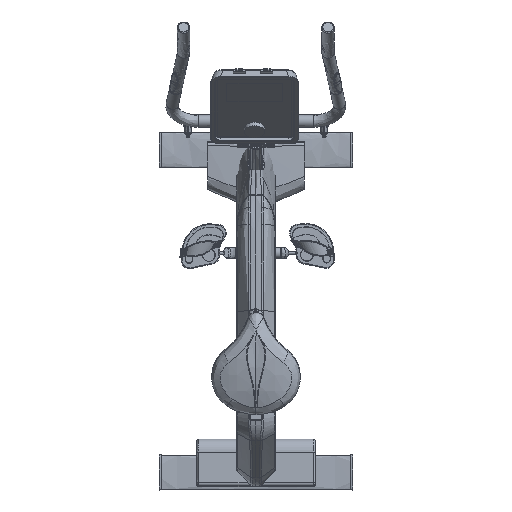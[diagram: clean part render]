
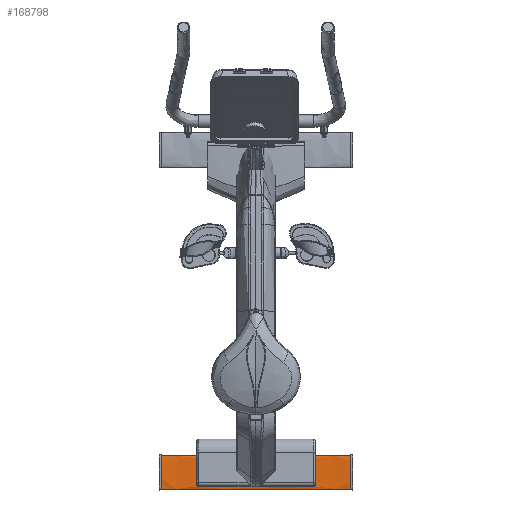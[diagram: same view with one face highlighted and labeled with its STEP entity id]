
A CAD part, top view. The second image highlights one B-rep face of the part: STEP entity #168798.
In plain terms, the highlighted free-form (B-spline) face has degree [3, 3] with [4, 4] control points.
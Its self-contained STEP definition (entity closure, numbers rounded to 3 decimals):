
#168699=CARTESIAN_POINT('',(255.563,-524.05,64.88));
#168700=VERTEX_POINT('',#168699);
#168701=CARTESIAN_POINT('',(255.563,-432.127,64.88));
#168702=VERTEX_POINT('',#168701);
#168703=CARTESIAN_POINT('',(255.563,-524.048,64.877));
#168704=CARTESIAN_POINT('',(255.563,-524.034,65.118));
#168705=CARTESIAN_POINT('',(255.563,-523.889,65.332));
#168706=CARTESIAN_POINT('',(255.563,-523.708,65.499));
#168707=CARTESIAN_POINT('',(255.563,-523.523,65.669));
#168708=CARTESIAN_POINT('',(255.563,-523.322,65.794));
#168709=CARTESIAN_POINT('',(255.563,-523.104,65.91));
#168710=CARTESIAN_POINT('',(255.563,-522.67,66.142));
#168711=CARTESIAN_POINT('',(255.563,-522.215,66.309));
#168712=CARTESIAN_POINT('',(255.563,-521.749,66.457));
#168713=CARTESIAN_POINT('',(255.563,-520.817,66.755));
#168714=CARTESIAN_POINT('',(255.563,-519.867,66.963));
#168715=CARTESIAN_POINT('',(255.563,-518.91,67.147));
#168716=CARTESIAN_POINT('',(255.563,-516.996,67.514));
#168717=CARTESIAN_POINT('',(255.563,-515.061,67.767));
#168718=CARTESIAN_POINT('',(255.563,-513.124,67.985));
#168719=CARTESIAN_POINT('',(255.563,-509.249,68.422));
#168720=CARTESIAN_POINT('',(255.563,-505.36,68.698));
#168721=CARTESIAN_POINT('',(255.563,-501.467,68.907));
#168722=CARTESIAN_POINT('',(255.563,-493.682,69.325));
#168723=CARTESIAN_POINT('',(255.563,-485.886,69.484));
#168724=CARTESIAN_POINT('',(255.563,-478.088,69.484));
#168725=CARTESIAN_POINT('',(255.563,-470.291,69.484));
#168726=CARTESIAN_POINT('',(255.563,-462.495,69.325));
#168727=CARTESIAN_POINT('',(255.563,-454.709,68.907));
#168728=CARTESIAN_POINT('',(255.563,-450.816,68.698));
#168729=CARTESIAN_POINT('',(255.563,-446.928,68.422));
#168730=CARTESIAN_POINT('',(255.563,-443.053,67.985));
#168731=CARTESIAN_POINT('',(255.563,-441.116,67.767));
#168732=CARTESIAN_POINT('',(255.563,-439.181,67.514));
#168733=CARTESIAN_POINT('',(255.563,-437.267,67.147));
#168734=CARTESIAN_POINT('',(255.563,-436.31,66.963));
#168735=CARTESIAN_POINT('',(255.563,-435.36,66.755));
#168736=CARTESIAN_POINT('',(255.563,-434.428,66.457));
#168737=CARTESIAN_POINT('',(255.563,-433.962,66.309));
#168738=CARTESIAN_POINT('',(255.563,-433.507,66.142));
#168739=CARTESIAN_POINT('',(255.563,-433.072,65.91));
#168740=CARTESIAN_POINT('',(255.563,-432.855,65.794));
#168741=CARTESIAN_POINT('',(255.563,-432.653,65.669));
#168742=CARTESIAN_POINT('',(255.563,-432.469,65.499));
#168743=CARTESIAN_POINT('',(255.563,-432.288,65.332));
#168744=CARTESIAN_POINT('',(255.563,-432.143,65.118));
#168745=CARTESIAN_POINT('',(255.563,-432.129,64.877));
#168746=B_SPLINE_CURVE_WITH_KNOTS('',3,(#168703,#168704,#168705,#168706,#168707,#168708,#168709,#168710,#168711,#168712,#168713,#168714,#168715,#168716,#168717,#168718,#168719,#168720,#168721,#168722,#168723,#168724,#168725,#168726,#168727,#168728,
#168729,#168730,#168731,#168732,#168733,#168734,#168735,#168736,#168737,#168738,#168739,#168740,#168741,#168742,#168743,#168744,#168745),.UNSPECIFIED.,.F.,.F.,(4,3,3,3,3,3,3,3,3,3,3,3,3,3,4),(0.,0.008,0.016,0.031,0.063,0.125,0.25,0.5,0.75,0.875,0.938,0.969,0.984,0.992,1.),.UNSPECIFIED.);
#168747=EDGE_CURVE('',#168700,#168702,#168746,.T.);
#168757=CARTESIAN_POINT('',(255.563,-524.051,64.884));
#168758=CARTESIAN_POINT('',(255.563,-524.051,71.012));
#168759=CARTESIAN_POINT('',(255.563,-432.125,71.012));
#168760=CARTESIAN_POINT('',(255.563,-432.125,64.884));
#168761=CARTESIAN_POINT('',(85.187,-524.051,64.884));
#168762=CARTESIAN_POINT('',(85.187,-524.051,71.012));
#168763=CARTESIAN_POINT('',(85.187,-432.125,71.012));
#168764=CARTESIAN_POINT('',(85.187,-432.125,64.884));
#168765=CARTESIAN_POINT('',(-85.19,-524.051,64.884));
#168766=CARTESIAN_POINT('',(-85.19,-524.051,71.012));
#168767=CARTESIAN_POINT('',(-85.19,-432.125,71.012));
#168768=CARTESIAN_POINT('',(-85.19,-432.125,64.884));
#168769=CARTESIAN_POINT('',(-255.566,-524.051,64.884));
#168770=CARTESIAN_POINT('',(-255.566,-524.051,71.012));
#168771=CARTESIAN_POINT('',(-255.566,-432.125,71.012));
#168772=CARTESIAN_POINT('',(-255.566,-432.125,64.884));
#168773=B_SPLINE_SURFACE_WITH_KNOTS('',3,3,((#168757,#168758,#168759,#168760),(#168761,#168762,#168763,#168764),(#168765,#168766,#168767,#168768),(#168769,#168770,#168771,#168772)),.UNSPECIFIED.,.F.,.F.,.U.,(4,4),(4,4),(0.,1.),(0.,1.),.UNSPECIFIED.);
#168774=CARTESIAN_POINT('',(-255.566,-432.126,64.88));
#168775=VERTEX_POINT('',#168774);
#168776=CARTESIAN_POINT('',(-255.566,-524.051,64.88));
#168777=VERTEX_POINT('',#168776);
#168778=CARTESIAN_POINT('',(-255.566,-432.127,64.877));
#168779=CARTESIAN_POINT('',(-255.566,-432.125,71.012));
#168780=CARTESIAN_POINT('',(-255.566,-524.051,71.012));
#168781=CARTESIAN_POINT('',(-255.566,-524.05,64.877));
#168782=B_SPLINE_CURVE_WITH_KNOTS('',3,(#168778,#168779,#168780,#168781),.UNSPECIFIED.,.F.,.F.,(4,4),(0.,1.),.UNSPECIFIED.);
#168783=EDGE_CURVE('',#168775,#168777,#168782,.T.);
#168784=ORIENTED_EDGE('',*,*,#168783,.T.);
#168785=CARTESIAN_POINT('',(255.563,-524.051,64.877));
#168786=CARTESIAN_POINT('',(-255.566,-524.051,64.877));
#168787=B_SPLINE_CURVE_WITH_KNOTS('',1,(#168785,#168786),.UNSPECIFIED.,.F.,.F.,(2,2),(0.,266.001),.UNSPECIFIED.);
#168788=EDGE_CURVE('',#168700,#168777,#168787,.T.);
#168789=ORIENTED_EDGE('',*,*,#168788,.F.);
#168790=ORIENTED_EDGE('',*,*,#168747,.T.);
#168791=CARTESIAN_POINT('',(-255.566,-432.125,64.877));
#168792=CARTESIAN_POINT('',(255.563,-432.125,64.877));
#168793=B_SPLINE_CURVE_WITH_KNOTS('',1,(#168791,#168792),.UNSPECIFIED.,.F.,.F.,(2,2),(0.,266.001),.UNSPECIFIED.);
#168794=EDGE_CURVE('',#168775,#168702,#168793,.T.);
#168795=ORIENTED_EDGE('',*,*,#168794,.F.);
#168796=EDGE_LOOP('',(#168784,#168789,#168790,#168795));
#168797=FACE_BOUND('',#168796,.T.);
#168798=ADVANCED_FACE('',(#168797),#168773,.F.);
